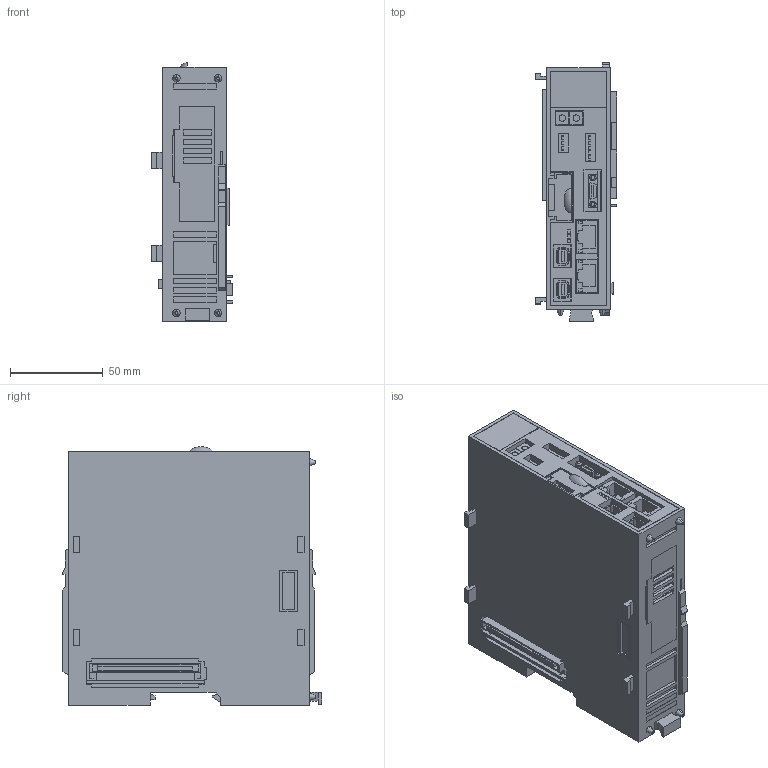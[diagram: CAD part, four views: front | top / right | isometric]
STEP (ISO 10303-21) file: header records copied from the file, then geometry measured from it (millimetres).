
FILE_DESCRIPTION (( 'STEP AP203' ), '1' );
FILE_NAME ('jepmc_cp3201_e.STEP', '2012-08-21T04:27:05', ( '匠エンジニアリング山之内' ), ( 'TAKUMI-Engniaring' ), 'SwSTEP 2.0', 'SolidWorks 2006303', '' );
FILE_SCHEMA (( 'CONFIG_CONTROL_DESIGN' ));
Length unit declared in the file: millimetre
Products named in the file (4): jepmc_cp3201_e; jepmc_cp3201_e_base; jepmc_cp3201_e_battery; jepmc_cp3201_e_cover
Assembly tree (3 placements, depth 2):
  jepmc_cp3201_e
    jepmc_cp3201_e_cover
    jepmc_cp3201_e_battery
    jepmc_cp3201_e_base
Bounding box: 44.2 x 140 x 139.4 mm (x, y, z)
Volume: 566867.3 mm3; surface area: 83340.7 mm2
Topology: 3 solids, 3 shells, 893 faces, 2397 edges, 1576 vertices
Faces by surface type: plane 839, cylinder 39, cone 12, torus 2, bspline 1
Entity records: 27982 total; most frequent: CARTESIAN_POINT 5060, ORIENTED_EDGE 4794, DIRECTION 4304, EDGE_CURVE 2397, VECTOR 2280, LINE 2280, VERTEX_POINT 1576, AXIS2_PLACEMENT_3D 1012
